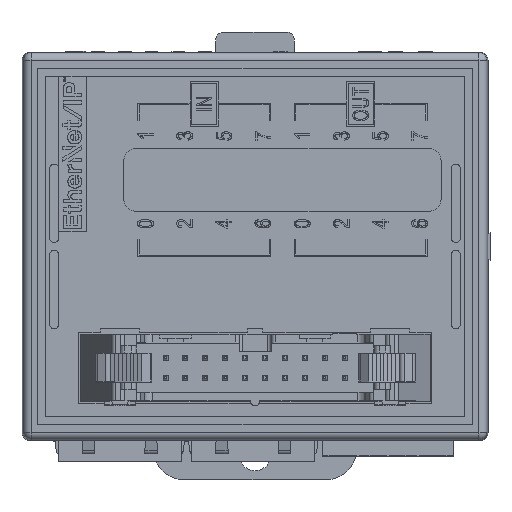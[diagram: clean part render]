
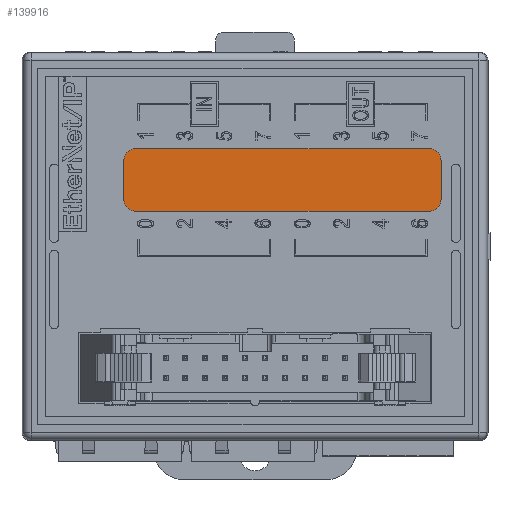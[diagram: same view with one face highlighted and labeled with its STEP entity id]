
A CAD part, top view. The second image highlights one B-rep face of the part: STEP entity #139916.
In plain terms, the highlighted planar face has unit normal (0, 0, 1).
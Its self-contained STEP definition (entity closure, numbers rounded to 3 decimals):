
#39097=DIRECTION('',(-1.,0.,0.));
#39098=VECTOR('',#39097,37.5);
#39099=CARTESIAN_POINT('',(22.25,12.5,30.9));
#39100=LINE('',#39099,#39098);
#39101=CARTESIAN_POINT('',(22.25,11.,30.9));
#39102=DIRECTION('',(0.,0.,1.));
#39103=DIRECTION('',(1.,0.,0.));
#39104=AXIS2_PLACEMENT_3D('',#39101,#39102,#39103);
#39106=DIRECTION('',(0.,1.,0.));
#39107=VECTOR('',#39106,5.);
#39108=CARTESIAN_POINT('',(23.75,6.,30.9));
#39109=LINE('',#39108,#39107);
#39110=CARTESIAN_POINT('',(22.25,6.,30.9));
#39111=DIRECTION('',(0.,0.,1.));
#39112=DIRECTION('',(0.,-1.,0.));
#39113=AXIS2_PLACEMENT_3D('',#39110,#39111,#39112);
#39115=DIRECTION('',(1.,0.,0.));
#39116=VECTOR('',#39115,37.5);
#39117=CARTESIAN_POINT('',(-15.25,4.5,30.9));
#39118=LINE('',#39117,#39116);
#39119=CARTESIAN_POINT('',(-15.25,6.,30.9));
#39120=DIRECTION('',(0.,0.,1.));
#39121=DIRECTION('',(-1.,0.,0.));
#39122=AXIS2_PLACEMENT_3D('',#39119,#39120,#39121);
#39124=DIRECTION('',(0.,-1.,0.));
#39125=VECTOR('',#39124,5.);
#39126=CARTESIAN_POINT('',(-16.75,11.,30.9));
#39127=LINE('',#39126,#39125);
#39128=CARTESIAN_POINT('',(-15.25,11.,30.9));
#39129=DIRECTION('',(0.,0.,1.));
#39130=DIRECTION('',(0.,1.,0.));
#39131=AXIS2_PLACEMENT_3D('',#39128,#39129,#39130);
#54959=CARTESIAN_POINT('',(-15.25,12.5,30.9));
#54960=VERTEX_POINT('',#54959);
#54961=CARTESIAN_POINT('',(22.25,12.5,30.9));
#54962=VERTEX_POINT('',#54961);
#54963=CARTESIAN_POINT('',(23.75,11.,30.9));
#54964=VERTEX_POINT('',#54963);
#54965=CARTESIAN_POINT('',(23.75,6.,30.9));
#54966=VERTEX_POINT('',#54965);
#54967=CARTESIAN_POINT('',(22.25,4.5,30.9));
#54968=VERTEX_POINT('',#54967);
#54969=CARTESIAN_POINT('',(-15.25,4.5,30.9));
#54970=VERTEX_POINT('',#54969);
#54971=CARTESIAN_POINT('',(-16.75,6.,30.9));
#54972=VERTEX_POINT('',#54971);
#54973=CARTESIAN_POINT('',(-16.75,11.,30.9));
#54974=VERTEX_POINT('',#54973);
#139901=CARTESIAN_POINT('',(3.5,8.5,30.9));
#139902=DIRECTION('',(0.,0.,1.));
#139903=DIRECTION('',(1.,0.,0.));
#139904=AXIS2_PLACEMENT_3D('',#139901,#139902,#139903);
#139905=PLANE('',#139904);
#139906=ORIENTED_EDGE('',*,*,#139741,.F.);
#139907=ORIENTED_EDGE('',*,*,#139763,.F.);
#139908=ORIENTED_EDGE('',*,*,#139784,.F.);
#139909=ORIENTED_EDGE('',*,*,#139805,.F.);
#139910=ORIENTED_EDGE('',*,*,#139826,.F.);
#139911=ORIENTED_EDGE('',*,*,#139847,.F.);
#139912=ORIENTED_EDGE('',*,*,#139868,.F.);
#139913=ORIENTED_EDGE('',*,*,#139888,.F.);
#139914=EDGE_LOOP('',(#139906,#139907,#139908,#139909,#139910,#139911,#139912,
#139913));
#139915=FACE_OUTER_BOUND('',#139914,.F.);
#139916=ADVANCED_FACE('',(#139915),#139905,.T.);
#39105=CIRCLE('',#39104,1.5);
#39114=CIRCLE('',#39113,1.5);
#39123=CIRCLE('',#39122,1.5);
#39132=CIRCLE('',#39131,1.5);
#139741=EDGE_CURVE('',#54962,#54960,#39100,.T.);
#139763=EDGE_CURVE('',#54964,#54962,#39105,.T.);
#139784=EDGE_CURVE('',#54966,#54964,#39109,.T.);
#139805=EDGE_CURVE('',#54968,#54966,#39114,.T.);
#139826=EDGE_CURVE('',#54970,#54968,#39118,.T.);
#139847=EDGE_CURVE('',#54972,#54970,#39123,.T.);
#139868=EDGE_CURVE('',#54974,#54972,#39127,.T.);
#139888=EDGE_CURVE('',#54960,#54974,#39132,.T.);
